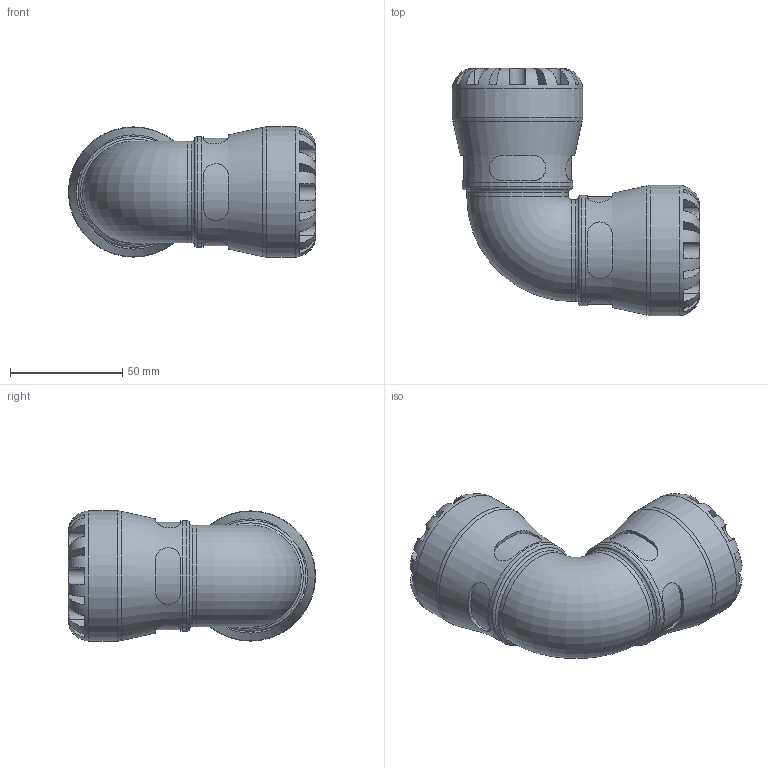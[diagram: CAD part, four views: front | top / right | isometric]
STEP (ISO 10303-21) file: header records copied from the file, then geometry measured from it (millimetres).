
FILE_DESCRIPTION(/* description */ ('PLASSON 90° ELBOW 32X32 SERIES 1'),/* implementation_level */ '2;1');
FILE_NAME(/* name */ 'C:\Dropbox\KIMPROJECTS-Inventor\99-16-3568-Processing\1005\100500032_190400032.ipt.stp',/* time_stamp */ '2017-01-22T11:44:19+02:00',/* author */ ('KIM'),/* organization */ (''),/* preprocessor_version */ 'ST-DEVELOPER v15.6',/* originating_system */ 'Autodesk Inventor 2015',/* authorisation */ '');
FILE_SCHEMA (('AUTOMOTIVE_DESIGN { 1 0 10303 214 3 1 1 }'));
Length unit declared in the file: millimetre
Products named in the file (1): 100500032_190400032
Bounding box: 110 x 110 x 58 mm (x, y, z)
Volume: 197074.8 mm3; surface area: 45838.7 mm2
Topology: 1 solids, 1 shells, 196 faces, 497 edges, 311 vertices
Faces by surface type: plane 116, cylinder 66, torus 12, cone 2
Full cylindrical faces by diameter (mm): 26.667 x2, 32 x2, 45.24 x2, 49.3 x2, 58 x2
Entity records: 7484 total; most frequent: CARTESIAN_POINT 2853, ORIENTED_EDGE 916, DIRECTION 894, EDGE_CURVE 458, AXIS2_PLACEMENT_3D 367, VERTEX_POINT 298, EDGE_LOOP 232, STYLED_ITEM 197
